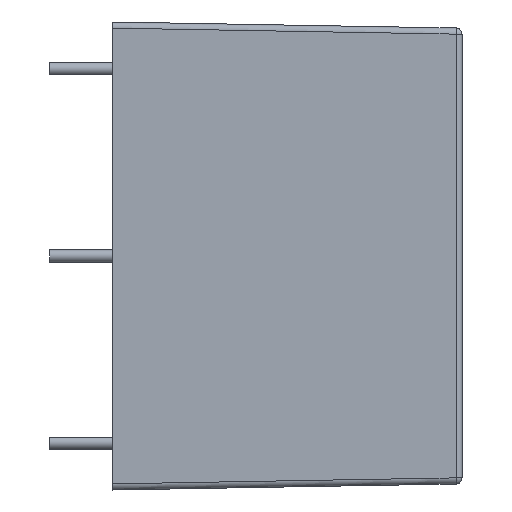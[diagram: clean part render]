
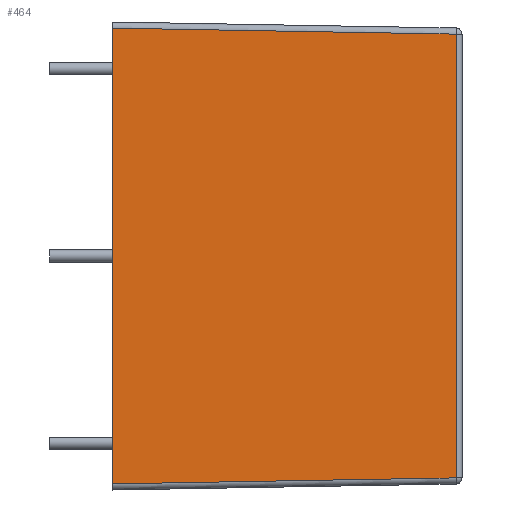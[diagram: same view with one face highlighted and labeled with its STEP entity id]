
A CAD part, left-side view. The second image highlights one B-rep face of the part: STEP entity #464.
In plain terms, the highlighted planar face has unit normal (-1, -0.018, 0).
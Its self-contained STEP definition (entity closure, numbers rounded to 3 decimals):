
#104 = VERTEX_POINT ( 'NONE', #6015 ) ;
#401 = EDGE_CURVE ( 'NONE', #693, #104, #3940, .T. ) ;
#464 = ADVANCED_FACE ( 'NONE', ( #5963 ), #3998, .T. ) ;
#693 = VERTEX_POINT ( 'NONE', #3288 ) ;
#772 = EDGE_LOOP ( 'NONE', ( #3452, #5827, #2564, #4492 ) ) ;
#1076 = DIRECTION ( 'NONE',  ( 0.017, -1., 0. ) ) ;
#1948 = CARTESIAN_POINT ( 'NONE',  ( -43.452, -27.959, 18.062 ) ) ;
#1952 = CARTESIAN_POINT ( 'NONE',  ( -43.929, -0.656, -18.539 ) ) ;
#2118 = CARTESIAN_POINT ( 'NONE',  ( -43.94, 0., 18.55 ) ) ;
#2564 = ORIENTED_EDGE ( 'NONE', *, *, #3053, .F. ) ;
#2863 = VECTOR ( 'NONE', #4863, 1000. ) ;
#3053 = EDGE_CURVE ( 'NONE', #693, #4812, #4159, .T. ) ;
#3062 = VERTEX_POINT ( 'NONE', #1948 ) ;
#3081 = AXIS2_PLACEMENT_3D ( 'NONE', #4551, #4970, #1076 ) ;
#3095 = VECTOR ( 'NONE', #5899, 1000. ) ;
#3232 = VECTOR ( 'NONE', #4000, 1000. ) ;
#3288 = CARTESIAN_POINT ( 'NONE',  ( -43.94, 0., -18.55 ) ) ;
#3452 = ORIENTED_EDGE ( 'NONE', *, *, #3825, .T. ) ;
#3825 = EDGE_CURVE ( 'NONE', #104, #3062, #6241, .T. ) ;
#3875 = CARTESIAN_POINT ( 'NONE',  ( -43.94, 0.009, 18.55 ) ) ;
#3940 = LINE ( 'NONE', #1952, #3095 ) ;
#3998 = PLANE ( 'NONE',  #3081 ) ;
#4000 = DIRECTION ( 'NONE',  ( 0., 0., 1. ) ) ;
#4159 = LINE ( 'NONE', #5854, #2863 ) ;
#4420 = VECTOR ( 'NONE', #5307, 1000. ) ;
#4492 = ORIENTED_EDGE ( 'NONE', *, *, #401, .T. ) ;
#4551 = CARTESIAN_POINT ( 'NONE',  ( -43.94, 0., 19.05 ) ) ;
#4812 = VERTEX_POINT ( 'NONE', #2118 ) ;
#4863 = DIRECTION ( 'NONE',  ( 0., 0., 1. ) ) ;
#4930 = CARTESIAN_POINT ( 'NONE',  ( -43.452, -27.959, 19.05 ) ) ;
#4970 = DIRECTION ( 'NONE',  ( -1., -0.017, 0. ) ) ;
#5307 = DIRECTION ( 'NONE',  ( -0.017, 1., 0.017 ) ) ;
#5629 = EDGE_CURVE ( 'NONE', #3062, #4812, #6076, .T. ) ;
#5827 = ORIENTED_EDGE ( 'NONE', *, *, #5629, .T. ) ;
#5854 = CARTESIAN_POINT ( 'NONE',  ( -43.94, 0., 19.05 ) ) ;
#5899 = DIRECTION ( 'NONE',  ( 0.017, -1., 0.017 ) ) ;
#5963 = FACE_OUTER_BOUND ( 'NONE', #772, .T. ) ;
#6015 = CARTESIAN_POINT ( 'NONE',  ( -43.452, -27.959, -18.062 ) ) ;
#6076 = LINE ( 'NONE', #3875, #4420 ) ;
#6241 = LINE ( 'NONE', #4930, #3232 ) ;
